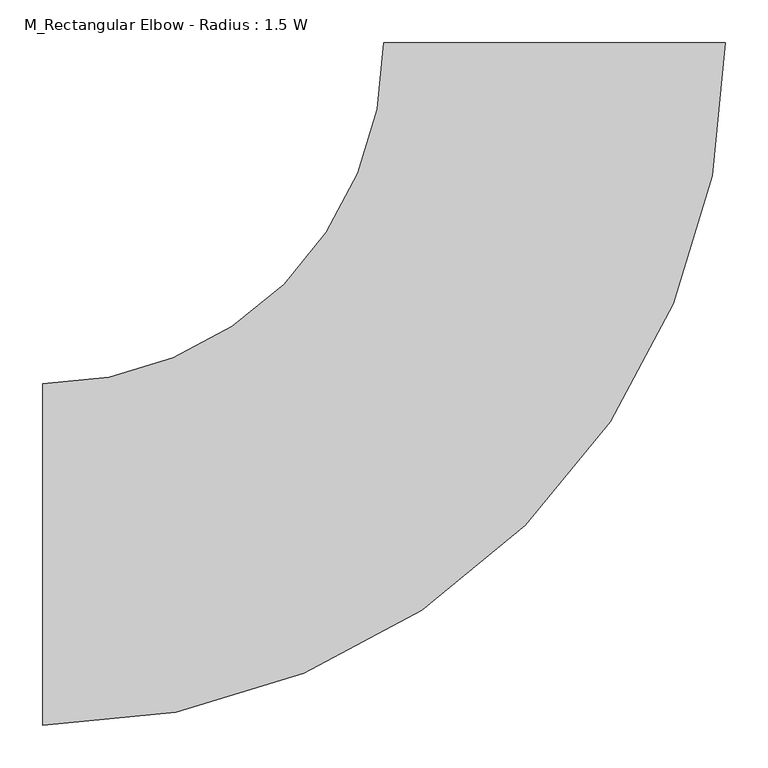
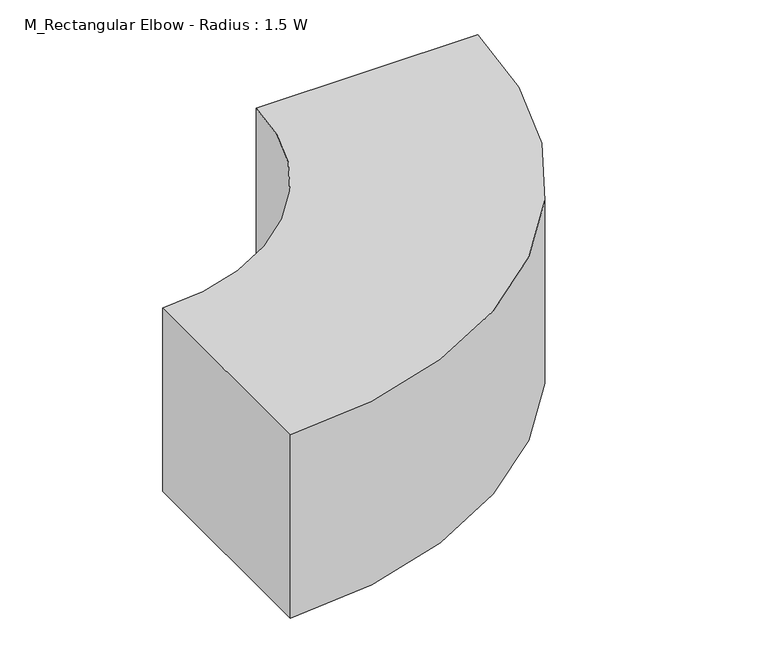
"""IFC4 building model written with IfcOpenShell, lengths in millimetres: duct fitting geometry, M_Rectangular Elbow - Radius : 1.5 W."""

from ifc_helpers import new_model, si_unit, point, frame, frame_2d, origin, place, context, project, spatial, polyline, circle_curve, trimmed, segment, composite_curve, outline, extrude, source, transform, mapped, element, save


def m_rectangular_elbow_radius_1_5_w_5757d774(model_context):
    return source(origin(), model_context, "Body", "SweptSolid", [
        extrude(outline(composite_curve([segment(trimmed(circle_curve(frame_2d((-600.0, 600.0)), 800.0), [point((200.0, 600.0))], [point((-600.0, -200.0))], False, "CARTESIAN"), True, "CONTINUOUS"), segment(polyline([(-600.0, -200.0), (-600.0, 200.0)]), True, "CONTINUOUS"), segment(trimmed(circle_curve(frame_2d((-600.0, 600.0)), 400.0), [point((-600.0, 200.0))], [point((-200.0, 600.0))], True, "CARTESIAN"), True, "CONTINUOUS"), segment(polyline([(-200.0, 600.0), (200.0, 600.0)]), True, "CONTINUOUS")], self_intersect=False)), frame((0.0, 0.0, -175.0), z_axis=(0.0, 0.0, 1.0), x_axis=(1.0, 0.0, 0.0)), (0.0, 0.0, 1.0), 350.0),
    ])


if __name__ == "__main__":
    model = new_model("IFC4")
    model_context = context("Model", 3, world=origin())
    ifc_project = project(units=[si_unit("LENGTHUNIT", "METRE", prefix="MILLI")], contexts=[model_context])
    site = spatial("IfcSite", under=ifc_project)
    building = spatial("IfcBuilding", under=site)
    placement = place(None, origin())
    m_rectangular_elbow_radius_1_5_w_shape = m_rectangular_elbow_radius_1_5_w_5757d774(model_context)
    element("IfcDuctFitting", 1, ObjectType="M_Rectangular Elbow - Radius : 1.5 W", at=placement, inside=building, context=model_context, shape_type="MappedRepresentation", body=[
        mapped(m_rectangular_elbow_radius_1_5_w_shape, transform((0.0, 0.0, 0.0), x_axis=(1.0, 0.0, 0.0), y_axis=(0.0, 1.0, 0.0), z_axis=(0.0, 0.0, 1.0))),
    ])
    save(model, "model.ifc")
